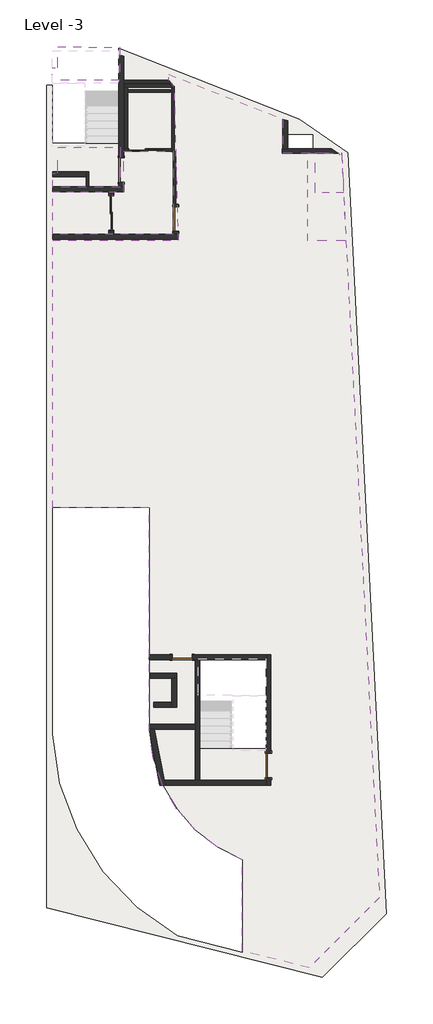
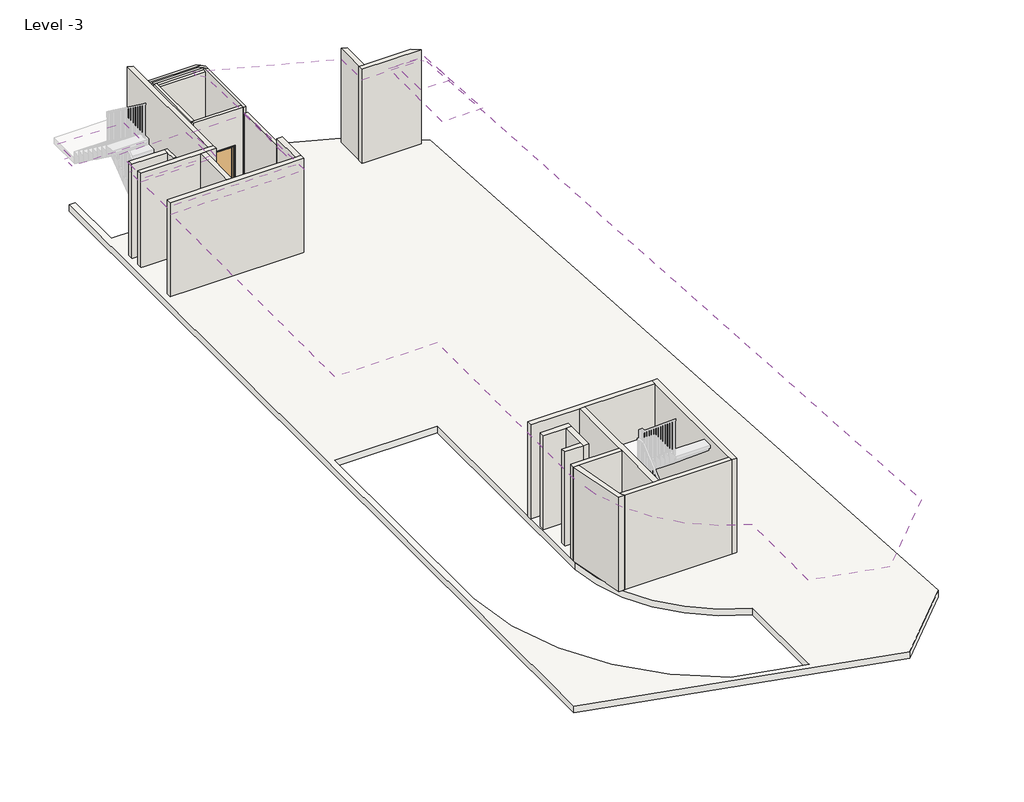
# One storey, part 1 of 2: 26 walls, 6 coverings, 6 doors, 1 slab.
"""IFC4 building model written with IfcOpenShell, lengths in millimetres."""

from ifc_helpers import new_model, si_unit, point, frame, frame_2d, origin, place, context, project, spatial, polyline, circle_curve, trimmed, segment, composite_curve, outline, extrude, faceted_brep, transform, mapped, element, save
from ifc_brep_helpers import plane_surface, cylinder_surface, revolved_surface, advanced_brep
from components import m_single_flush_0762_x_2134mm_e7173df3, m_single_flush_0915_x_2032mm_88b5ae01, m_single_flush_0915_x_2134mm_5c733ab1, sliding_door_2_panel_aus_f73f6a40, sliding_door_2_panel_aus_ee5771a8

model = new_model("IFC4")

# Units and contexts
model_context = context("Model", 3, world=origin())
ifc_project = project(units=[si_unit("LENGTHUNIT", "METRE", prefix="MILLI")], contexts=[model_context])

# Site, building, storey
site = spatial("IfcSite", under=ifc_project)
building = spatial("IfcBuilding", under=site)
storey = spatial("IfcBuildingStorey", under=building, Name="Level -3", Elevation=-10500.0)

# Coverings
placement = place(None, origin())
element("IfcCovering", 1, ObjectType="600 x 600mm Grid", at=placement, inside=storey, context=model_context, shape_type="SweptSolid", body=[
    extrude(outline(composite_curve([segment(polyline([(-50.0421304, 6706.8748838), (4649.9578696, 6706.8748838), (4499.6302337, 12469.6208989), (4287.3075102, 12681.9436225), (4287.3075102, 12910.4698504), (8546.2956563, 11236.7124719), (8546.2956563, 9974.899122), (10606.2956563, 9974.899122), (10739.4142744, 9841.7805038), (11644.560032, -7935.1908681), (12147.983796, -17822.3828109), (9531.6887056, -20438.6779013), (7033.8183565, -19807.2861395), (7033.8183565, -16402.4446286)]), True, "CONTINUOUS"), segment(trimmed(circle_curve(frame_2d((9044.1542392, -11277.4219597)), 5505.2073274), [point((7033.8183565, -16402.4446286))], [point((7033.4708981, -16402.3083214))], False, "CARTESIAN"), True, "CONTINUOUS"), segment(trimmed(circle_curve(frame_2d((9044.1542392, -11277.4219597)), 5505.2073274), [point((7033.4708981, -16402.3083214))], [point((3549.4089841, -11616.6597812))], False, "CARTESIAN"), True, "CONTINUOUS"), segment(polyline([(3549.4089841, -11616.6597812), (3549.4089841, -3268.2489802), (-50.0421304, -3268.2489802), (-50.0421304, 6706.8748838)]), True, "CONTINUOUS")], self_intersect=False), holes=[polyline([(8099.9667664, -8760.5298497), (5499.9667664, -8760.5298497), (5499.9667664, -8940.5298497), (5449.992527, -8940.5298497), (5449.992527, -12235.6929429), (5499.9667664, -12235.6929429), (5499.9667664, -13617.5279318), (8099.9667664, -13617.5279318), (8099.9667664, -8760.5298497)])]), frame((0.0, 0.0, -7400.0), z_axis=(0.0, 0.0, 1.0), x_axis=(1.0, 0.0, 0.0)), (0.0, 0.0, 1.0), 52.0),
])
element("IfcCovering", 2, ObjectType="600 x 600mm Grid", at=placement, inside=storey, context=model_context, shape_type="SweptSolid", body=[
    extrude(outline(polyline([(-50.0290025, 6931.9670663), (-50.0290025, 8531.9436159), (2599.6668671, 8531.9436159), (2599.6668671, 10031.9436225), (4454.958768, 10031.9436225), (4454.958768, 8066.9242252), (4459.6770164, 8066.9242252), (4459.6770164, 6931.9670663), (-50.0290025, 6931.9670663)])), frame((0.0, 0.0, -7300.0), z_axis=(0.0, 0.0, 1.0), x_axis=(1.0, 0.0, 0.0)), (0.0, 0.0, 1.0), 52.0),
])
element("IfcCovering", 3, ObjectType="600 x 600mm Grid", at=placement, inside=storey, context=model_context, shape_type="SweptSolid", body=[
    extrude(outline(polyline([(9476.0873915, 9954.899122), (10733.6564426, 9954.899122), (10900.0292232, 6686.33213), (9476.0873915, 6686.33213), (9476.0873915, 9954.899122)])), frame((0.0, 0.0, -7300.0), z_axis=(0.0, 0.0, 1.0), x_axis=(1.0, 0.0, 0.0)), (0.0, 0.0, 1.0), 52.0),
])
element("IfcCovering", 4, ObjectType="600 x 600mm Grid", at=placement, inside=storey, context=model_context, shape_type="SweptSolid", body=[
    extrude(outline(polyline([(9748.9783115, 9974.899122), (10732.6384259, 9974.899122), (10808.7312912, 8479.9753316), (9748.9783115, 8479.9753316), (9748.9783115, 9974.899122)])), frame((0.0, 0.0, -7300.0), z_axis=(0.0, 0.0, 1.0), x_axis=(1.0, 0.0, 0.0)), (0.0, 0.0, 1.0), 52.0),
])
element("IfcCovering", 5, ObjectType="600 x 600mm Grid", at=placement, inside=storey, context=model_context, shape_type="SweptSolid", body=[
    extrude(outline(polyline([(2481.8607589, 10179.4957281), (2481.8607589, 8696.8748746), (-50.0421304, 8696.8748746), (-50.0421304, 9219.4957281), (149.9709975, 9219.4957281), (149.9709975, 10179.4957281), (2481.8607589, 10179.4957281)])), frame((0.0, 0.0, -7350.0), z_axis=(0.0, 0.0, 1.0), x_axis=(1.0, 0.0, 0.0)), (0.0, 0.0, 1.0), 52.0),
])
element("IfcCovering", 6, ObjectType="600 x 600mm Grid", at=placement, inside=storey, context=model_context, shape_type="SweptSolid", body=[
    extrude(outline(polyline([(2454.9743495, 12688.8107611), (-60.0421304, 12688.8107611), (-60.0421304, 13143.419171), (149.9709975, 13143.419171), (149.9709975, 13943.419171), (2454.9743495, 13908.8107611), (2454.9743495, 12688.8107611)])), frame((0.0, 0.0, -9250.0), z_axis=(0.0, 0.0, 1.0), x_axis=(1.0, 0.0, 0.0)), (0.0, 0.0, 1.0), 52.0),
])

# Doors
m_single_flush_0762_x_2134mm_shape = m_single_flush_0762_x_2134mm_e7173df3(model_context)
element("IfcDoor", 7, ObjectType="M_Single-Flush : 0762 x 2134mm", at=placement, inside=storey, context=model_context, shape_type="MappedRepresentation", body=[
    mapped(m_single_flush_0762_x_2134mm_shape, transform((4788.992527, -8850.5298497, -10500.0), x_axis=(1.0, 0.0, 0.0), y_axis=(0.0, 1.0, 0.0), z_axis=(0.0, 0.0, 1.0))),
])
m_single_flush_0915_x_2032mm_shape = m_single_flush_0915_x_2032mm_88b5ae01(model_context)
element("IfcDoor", 8, ObjectType="M_Single-Flush : 0915 x 2032mm", at=placement, inside=storey, context=model_context, shape_type="MappedRepresentation", body=[
    mapped(m_single_flush_0915_x_2032mm_shape, transform((8009.9667664, -12880.0279318, -10500.0), x_axis=(0.0, -1.0, 0.0), y_axis=(1.0, 0.0, 0.0), z_axis=(0.0, 0.0, 1.0))),
])
m_single_flush_0915_x_2134mm_shape = m_single_flush_0915_x_2134mm_5c733ab1(model_context)
element("IfcDoor", 9, ObjectType="M_Single-Flush : 0915 x 2134mm", at=placement, inside=storey, context=model_context, shape_type="MappedRepresentation", body=[
    mapped(m_single_flush_0915_x_2134mm_shape, transform((2509.6668671, 9329.4436159, -10500.0), x_axis=(0.0, -1.0, 0.0), y_axis=(1.0, 0.0, 0.0), z_axis=(0.0, 0.0, 1.0))),
])
element("IfcDoor", 10, ObjectType="M_Single-Flush : 0915 x 2134mm", at=placement, inside=storey, context=model_context, shape_type="MappedRepresentation", body=[
    mapped(m_single_flush_0915_x_2134mm_shape, transform((4549.6770164, 7499.4456458, -10500.0), x_axis=(0.0, -1.0, 0.0), y_axis=(1.0, 0.0, 0.0), z_axis=(0.0, 0.0, 1.0))),
])
sliding_door_2_panel_aus_shape = sliding_door_2_panel_aus_f73f6a40(model_context)
element("IfcDoor", 11, ObjectType="Sliding Door - 2 Panel (AUS) : elavator door", at=placement, inside=storey, context=model_context, shape_type="MappedRepresentation", body=[
    mapped(sliding_door_2_panel_aus_shape, transform((2134.7837288, 7646.1973399, -10500.0), x_axis=(0.0, 1.0, 0.0), y_axis=(-1.0, 0.0, 0.0), z_axis=(0.0, 0.0, 1.0))),
])
sliding_door_2_panel_aus_2_shape = sliding_door_2_panel_aus_ee5771a8(model_context)
element("IfcDoor", 12, ObjectType="Sliding Door - 2 Panel (AUS) : elavator door", at=placement, inside=storey, context=model_context, shape_type="MappedRepresentation", body=[
    mapped(sliding_door_2_panel_aus_2_shape, transform((3525.434997, 10081.9436225, -10500.0), x_axis=(-1.0, 0.0, 0.0), y_axis=(0.0, -1.0, 0.0), z_axis=(0.0, 0.0, 1.0))),
])

# Slab
element("IfcSlab", 13, ObjectType="Standard Timber-sang Finish 2", at=placement, inside=storey, context=model_context, shape_type="AdvancedBrep", body=[
    advanced_brep(
    [(9156.5694815, 11238.6298521, -10741.0), (10957.1933497, 9989.3657475, -10741.0), (12403.1153427, -18417.281555, -10741.0), (10022.4900241, -20797.9068736, -10741.0), (-275.0290025, -18194.9820731, -10741.0), (-275.0290025, 12501.9436225, -10741.0), (-60.0290025, 12501.9436225, -10741.0), (-60.0290025, 10328.8506586, -10741.0), (2419.6668671, 10328.8506586, -10741.0), (2419.6668671, 12501.9436225, -10741.0), (2424.9709975, 12501.9436225, -10741.0), (2424.9709975, 13884.1086008, -10741.0), (4630.7168036, -19241.4894179, -10741.0), (7033.8183565, -19848.9262785, -10741.0), (7033.8183565, -19810.3775142, -10741.0), (7033.8183565, -16402.4446286, -10741.0), (3549.4089841, -11616.6597812, -10741.0), (3549.4089841, -3268.2489802, -10741.0), (-50.5910159, -3268.2489802, -10741.0), (-50.5910159, -11648.2489802, -10741.0), (-50.5910159, -11713.7810095, -10741.0), (7909.9709976, -8940.5298497, -10741.0), (5449.992527, -8940.5298497, -10741.0), (5449.992527, -12235.6929429, -10741.0), (7909.9709976, -12235.6929429, -10741.0), (9656.2956563, 10654.899122, -10741.0), (8676.2956563, 10654.899122, -10741.0), (8676.2956563, 10104.899122, -10741.0), (9656.2956563, 10104.899122, -10741.0), (10957.1933497, 9989.3657475, -10500.0), (9156.5694815, 11238.6298521, -10500.0), (2424.9709975, 13884.1086008, -10500.0), (2424.9709975, 12501.9436225, -10500.0), (2419.6668671, 12501.9436225, -10500.0), (2419.6668671, 10328.8506586, -10500.0), (-60.0290025, 10328.8506586, -10500.0), (-60.0290025, 12501.9436225, -10500.0), (-275.0290025, 12501.9436225, -10500.0), (-275.0290025, -18194.9820731, -10500.0), (10022.4900241, -20797.9068736, -10500.0), (12403.1153427, -18417.281555, -10500.0), (7033.8183565, -19848.9262785, -10500.0), (4630.7168036, -19241.4894179, -10500.0), (-50.5910159, -11713.7810095, -10500.0), (-50.5910159, -11648.2489802, -10500.0), (-50.5910159, -3268.2489802, -10500.0), (3549.4089841, -3268.2489802, -10500.0), (3549.4089841, -11616.6597812, -10500.0), (7033.8183565, -16402.4446286, -10500.0), (7033.8183565, -19810.3775142, -10500.0), (5449.992527, -8940.5298497, -10500.0), (7909.9709976, -8940.5298497, -10500.0), (7909.9709976, -12235.6929429, -10500.0), (5449.992527, -12235.6929429, -10500.0), (8676.2956563, 10654.899122, -10500.0), (9656.2956563, 10654.899122, -10500.0), (9656.2956563, 10104.899122, -10500.0), (8676.2956563, 10104.899122, -10500.0)],
    [
        (0, 1),
        (1, 2),
        (2, 3),
        (3, 4),
        (4, 5),
        (5, 6),
        (6, 7),
        (7, 8),
        (8, 9),
        (9, 10),
        (10, 11),
        (11, 0),
        (12, 13),
        (13, 14),
        (14, 15),
        (15, 16, circle_curve(frame((9044.1542392, -11277.4219597, -10741.0), z_axis=(0.0, 0.0, -1.0), x_axis=(1.0, 0.0, 0.0)), 5505.2073274)),
        (16, 17),
        (17, 18),
        (18, 19),
        (19, 20),
        (20, 12, circle_curve(frame((9044.1542392, -11277.4219597, -10741.0), z_axis=(0.0, 0.0, 1.0), x_axis=(1.0, 0.0, 0.0)), 9105.2073274)),
        (21, 22),
        (22, 23),
        (23, 24),
        (24, 21),
        (25, 26),
        (26, 27),
        (27, 28),
        (28, 25),
        (29, 30),
        (30, 31),
        (31, 32),
        (32, 33),
        (33, 34),
        (34, 35),
        (35, 36),
        (36, 37),
        (37, 38),
        (38, 39),
        (39, 40),
        (40, 29),
        (41, 42),
        (42, 43, circle_curve(frame((9044.1542392, -11277.4219597, -10500.0), z_axis=(0.0, 0.0, -1.0), x_axis=(1.0, 0.0, 0.0)), 9105.2073274)),
        (43, 44),
        (44, 45),
        (45, 46),
        (46, 47),
        (47, 48, circle_curve(frame((9044.1542392, -11277.4219597, -10500.0), z_axis=(0.0, 0.0, 1.0), x_axis=(1.0, 0.0, 0.0)), 5505.2073274)),
        (48, 49),
        (49, 41),
        (50, 51),
        (51, 52),
        (52, 53),
        (53, 50),
        (54, 55),
        (55, 56),
        (56, 57),
        (57, 54),
        (0, 30),
        (29, 1),
        (40, 2),
        (39, 3),
        (38, 4),
        (37, 5),
        (11, 31),
        (12, 42),
        (41, 13),
        (48, 15),
        (47, 16),
        (17, 46),
        (45, 18),
        (44, 19),
        (43, 20),
        (35, 7),
        (6, 36),
        (34, 8),
        (33, 9),
        (21, 51),
        (50, 22),
        (53, 23),
        (52, 24),
        (25, 55),
        (54, 26),
        (57, 27),
        (56, 28),
        (32, 10),
    ],
    [
        plane_surface(frame((9156.5694815, 11238.6298521, -10741.0), z_axis=(0.0, 0.0, -1.0), x_axis=(0.8216198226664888, -0.5700358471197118, 0.0))),
        plane_surface(frame((9156.5694815, 11238.6298521, -10500.0), z_axis=(0.0, 0.0, 1.0), x_axis=(-0.8216198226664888, 0.5700358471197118, 0.0))),
        plane_surface(frame((9156.5694815, 11238.6298521, -10741.0), z_axis=(0.5700358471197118, 0.8216198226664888, 0.0), x_axis=(0.0, 0.0, 1.0))),
        plane_surface(frame((10957.1933497, 9989.3657475, -10741.0), z_axis=(0.9987070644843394, 0.05083502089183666, 0.0), x_axis=(0.0, 0.0, 1.0))),
        plane_surface(frame((12403.1153427, -18417.281555, -10741.0), z_axis=(0.707106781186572, -0.707106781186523, 0.0), x_axis=(0.0, 0.0, 1.0))),
        plane_surface(frame((10022.4900241, -20797.9068736, -10741.0), z_axis=(-0.24506421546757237, -0.9695068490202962, 0.0), x_axis=(0.0, 0.0, 1.0))),
        plane_surface(frame((-275.0290025, -18194.9820731, -10741.0), z_axis=(-1.0, 0.0, 0.0), x_axis=(0.0, 0.0, 1.0))),
        plane_surface(frame((2424.9709975, 13884.1086008, -10741.0), z_axis=(0.36576282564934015, 0.9307080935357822, 0.0), x_axis=(0.0, 0.0, 1.0))),
        plane_surface(frame((4630.7168036, -19241.4894179, -10741.0), z_axis=(0.24506421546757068, 0.9695068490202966, 0.0), x_axis=(0.0, 0.0, 1.0))),
        plane_surface(frame((7033.8183565, -19848.9262785, -10741.0), z_axis=(-1.0, 0.0, 0.0), x_axis=(0.0, 0.0, 1.0))),
        cylinder_surface(frame((9044.1542392, -11277.4219597, -10500.0), z_axis=(0.0, 0.0, -1.0), x_axis=(1.0, 0.0, 0.0)), 5505.2073274),
        plane_surface(frame((3548.8968515, -3268.2489802, -10741.0), z_axis=(0.0, -1.0, 0.0), x_axis=(0.0, 0.0, 1.0))),
        plane_surface(frame((-50.5910159, -3268.2489802, -10741.0), z_axis=(1.0, 0.0, 0.0), x_axis=(0.0, 0.0, 1.0))),
        plane_surface(frame((-50.5910159, -11648.2489802, -10741.0), z_axis=(1.0, 0.0, 0.0), x_axis=(0.0, 0.0, 1.0))),
        revolved_surface(polyline([(18149.361566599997, -11277.4219597, -10500.0), (18149.361566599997, -11277.4219597, -10741.0)]), (9044.1542392, -11277.4219597, -10500.0), (0.0, 0.0, 1.0)),
        plane_surface(frame((-60.0290025, 12568.8506586, -3195.2), z_axis=(1.0, 0.0, 0.0), x_axis=(0.0, 0.0, -1.0))),
        plane_surface(frame((-60.0290025, 10328.8506586, -3195.2), z_axis=(0.0, 1.0, 0.0), x_axis=(0.0, 0.0, -1.0))),
        plane_surface(frame((2419.6668671, 10328.8506586, -3195.2), z_axis=(-1.0, 0.0, 0.0), x_axis=(0.0, 0.0, -1.0))),
        plane_surface(frame((7909.9709976, -8940.5298497, -3195.2), z_axis=(0.0, -1.0, 0.0), x_axis=(0.0, 0.0, -1.0))),
        plane_surface(frame((5449.992527, -8940.5298497, -3195.2), z_axis=(1.0, 0.0, 0.0), x_axis=(0.0, 0.0, -1.0))),
        plane_surface(frame((5449.992527, -12235.6929429, -3195.2), z_axis=(0.0, 1.0, 0.0), x_axis=(0.0, 0.0, -1.0))),
        plane_surface(frame((7909.9709976, -12235.6929429, -3195.2), z_axis=(-1.0, 0.0, 0.0), x_axis=(0.0, 0.0, -1.0))),
        plane_surface(frame((9656.2956563, 10654.899122, -6695.2), z_axis=(0.0, -1.0, 0.0), x_axis=(0.0, 0.0, -1.0))),
        plane_surface(frame((8676.2956563, 10654.899122, -6695.2), z_axis=(1.0, 0.0, 0.0), x_axis=(0.0, 0.0, -1.0))),
        plane_surface(frame((8676.2956563, 10104.899122, -6695.2), z_axis=(0.0, 1.0, 0.0), x_axis=(0.0, 0.0, -1.0))),
        plane_surface(frame((9656.2956563, 10104.899122, -6695.2), z_axis=(-1.0, 0.0, 0.0), x_axis=(0.0, 0.0, -1.0))),
        plane_surface(frame((3549.4089841, -11616.6597812, 3563.8), z_axis=(-1.0, 0.0, 0.0), x_axis=(0.0, 0.0, -1.0))),
        plane_surface(frame((-275.0290025, 12501.9436225, -10741.0), z_axis=(0.0, 1.0, 0.0), x_axis=(0.0, 0.0, 1.0))),
        plane_surface(frame((2424.9709975, 12501.9436225, -10741.0), z_axis=(-1.0, 0.0, 0.0), x_axis=(0.0, 0.0, 1.0))),
    ],
    [
        (0, [[1, 2, 3, 4, 5, 6, 7, 8, 9, 10, 11, 12], [13, 14, 15, 16, 17, 18, 19, 20, 21], [22, 23, 24, 25], [26, 27, 28, 29]]),
        (1, [[30, 31, 32, 33, 34, 35, 36, 37, 38, 39, 40, 41], [42, 43, 44, 45, 46, 47, 48, 49, 50], [51, 52, 53, 54], [55, 56, 57, 58]]),
        (2, [[-1, 59, -30, 60]]),
        (3, [[-2, -60, -41, 61]]),
        (4, [[-3, -61, -40, 62]]),
        (5, [[-4, -62, -39, 63]]),
        (6, [[-5, -63, -38, 64]]),
        (7, [[-12, 65, -31, -59]]),
        (8, [[-13, 66, -42, 67]]),
        (9, [[-67, -50, -49, 68, -15, -14]]),
        (10, [[-68, -48, 69, -16]]),
        (11, [[70, -46, 71, -18]]),
        (12, [[-19, -71, -45, 72]]),
        (13, [[-20, -72, -44, 73]]),
        (14, [[-21, -73, -43, -66]]),
        (15, [[74, -7, 75, -36]]),
        (16, [[-74, -35, 76, -8]]),
        (17, [[-76, -34, 77, -9]]),
        (18, [[78, -51, 79, -22]]),
        (19, [[-79, -54, 80, -23]]),
        (20, [[-80, -53, 81, -24]]),
        (21, [[-78, -25, -81, -52]]),
        (22, [[82, -55, 83, -26]]),
        (23, [[-83, -58, 84, -27]]),
        (24, [[-84, -57, 85, -28]]),
        (25, [[-82, -29, -85, -56]]),
        (26, [[-70, -17, -69, -47]]),
        (27, [[-64, -37, -75, -6]]),
        (27, [[86, -10, -77, -33]]),
        (28, [[-11, -86, -32, -65]]),
    ],
),
])

# Walls
element("IfcWall", 14, ObjectType="Generic - 18cm-gypsu-2boith 2", at=placement, inside=storey, context=model_context, shape_type="Brep", body=[
    faceted_brep([(4639.6770164, 6931.9670663, -10500.0), (4459.6770164, 6931.9670663, -10500.0), (2224.7837288, 6931.9670663, -10500.0), (2044.7837288, 6931.9670663, -10500.0), (-50.0290025, 6931.9670663, -10500.0), (-50.0290025, 6931.9670663, -7000.0), (2044.7837288, 6931.9670663, -7000.0), (2224.7837288, 6931.9670663, -7000.0), (4459.6770164, 6931.9670663, -7000.0), (4639.6770164, 6931.9670663, -7000.0), (4639.6770164, 6751.9670663, -10500.0), (4639.6770164, 6751.9670663, -7000.0), (-50.0290025, 6751.9670663, -7000.0), (-50.0290025, 6751.9670663, -10500.0)], [[[0, 1, 2, 3, 4, 5, 6, 7, 8, 9]], [[10, 11, 12, 13]], [[4, 3, 2, 1, 0, 10, 13]], [[9, 8, 7, 6, 5, 12, 11]], [[0, 9, 11, 10]], [[5, 4, 13, 12]]]),
])
element("IfcWall", 15, ObjectType="Generic - 18cm-gypsu-2boith 2", at=placement, inside=storey, context=model_context, shape_type="Brep", body=[
    faceted_brep([(4459.6770164, 7041.9456458, -8366.0), (4459.6770164, 7041.9456458, -10500.0), (4459.6770164, 6931.9670663, -10500.0), (4459.6770164, 6931.9670663, -7000.0), (4459.6770164, 8066.9242252, -7000.0), (4459.6770164, 8066.9242252, -10500.0), (4459.6770164, 7956.9456458, -10500.0), (4459.6770164, 7956.9456458, -8366.0), (4639.6770164, 6931.9670663, -10500.0), (4639.6770164, 7041.9456458, -10500.0), (4639.6770164, 7041.9456458, -8366.0), (4639.6770164, 7956.9456458, -8366.0), (4639.6770164, 7956.9456458, -10500.0), (4639.6770164, 8066.9242252, -10500.0), (4639.6770164, 8066.9242252, -7000.0), (4639.6770164, 6931.9670663, -7000.0), (4554.958768, 8066.9242252, -10500.0), (4554.958768, 8066.9242252, -7000.0)], [[[0, 1, 2, 3, 4, 5, 6, 7]], [[8, 9, 10, 11, 12, 13, 14, 15]], [[6, 5, 16, 13, 12]], [[2, 1, 9, 8]], [[4, 3, 15, 14, 17]], [[5, 4, 17, 14, 13, 16]], [[3, 2, 8, 15]], [[10, 9, 1, 0]], [[11, 10, 0, 7]], [[12, 11, 7, 6]]]),
])
element("IfcWall", 16, ObjectType="Generic - 18cm-gypsu-2boith 2", at=placement, inside=storey, context=model_context, shape_type="Brep", body=[
    faceted_brep([(2419.6668671, 8871.9436159, -8366.0), (2419.6668671, 8871.9436159, -10500.0), (2419.6668671, 8711.9436159, -10500.0), (2419.6668671, 8711.9436159, -7000.0), (2419.6668671, 13644.4416764, -7000.0), (2419.6668671, 13644.4416764, -10500.0), (2419.6668671, 9786.9436159, -10500.0), (2419.6668671, 9786.9436159, -8366.0), (2599.6668671, 8711.9436159, -10500.0), (2599.6668671, 8871.9436159, -10500.0), (2599.6668671, 8871.9436159, -8366.0), (2599.6668671, 9786.9436159, -8366.0), (2599.6668671, 9786.9436159, -10500.0), (2599.6668671, 13573.7027314, -10500.0), (2599.6668671, 13573.7027314, -7000.0), (2599.6668671, 8711.9436159, -7000.0)], [[[0, 1, 2, 3, 4, 5, 6, 7]], [[8, 9, 10, 11, 12, 13, 14, 15]], [[6, 5, 13, 12]], [[2, 1, 9, 8]], [[4, 3, 15, 14]], [[3, 2, 8, 15]], [[10, 9, 1, 0]], [[11, 10, 0, 7]], [[12, 11, 7, 6]], [[5, 4, 14, 13]]]),
])
element("IfcWall", 17, ObjectType="Generic - 18cm-gypsu-2boith 2", at=placement, inside=storey, context=model_context, shape_type="Brep", body=[
    faceted_brep([(2599.6668671, 8711.9436159, -10500.0), (2419.6668671, 8711.9436159, -10500.0), (-50.0290025, 8711.9436159, -10500.0), (-50.0290025, 8711.9436159, -7000.0), (2419.6668671, 8711.9436159, -7000.0), (2599.6668671, 8711.9436159, -7000.0), (2599.6668671, 8531.9436159, -10500.0), (2599.6668671, 8531.9436159, -7000.0), (2224.7837288, 8531.9436159, -7000.0), (2044.7837288, 8531.9436159, -7000.0), (-50.0290025, 8531.9436159, -7000.0), (-50.0290025, 8531.9436159, -10500.0), (2044.7837288, 8531.9436159, -10500.0), (2224.7837288, 8531.9436159, -10500.0)], [[[0, 1, 2, 3, 4, 5]], [[6, 7, 8, 9, 10, 11, 12, 13]], [[2, 1, 0, 6, 13, 12, 11]], [[5, 4, 3, 10, 9, 8, 7]], [[0, 5, 7, 6]], [[3, 2, 11, 10]]]),
])
element("IfcWall", 18, ObjectType="Generic - 10cm-gypsu-2boith", at=placement, inside=storey, context=model_context, shape_type="Brep", body=[
    faceted_brep([(4454.958768, 10019.4984209, -10500.0), (4454.958768, 8066.9242252, -10500.0), (4454.958768, 8066.9242252, -7241.0), (4454.958768, 10019.4984209, -7241.0), (4554.958768, 8066.9242252, -10500.0), (4554.958768, 10019.4984209, -10500.0), (4554.958768, 10019.4984209, -7241.0), (4554.958768, 8066.9242252, -7241.0), (4499.6302337, 10019.4984209, -10500.0), (4459.6770164, 8066.9242252, -10500.0)], [[[0, 1, 2, 3]], [[4, 5, 6, 7]], [[1, 0, 8, 5, 4, 9]], [[1, 9, 4, 7, 2]], [[5, 8, 0, 3, 6]], [[3, 2, 7, 6]]]),
])
element("IfcWall", 19, ObjectType="Generic - 10cm-gypsu-2boith", at=placement, inside=storey, context=model_context, shape_type="Brep", body=[
    faceted_brep([(1198.6625691, 9269.4957276, -10500.0), (1198.6625691, 9089.4957276, -10500.0), (1198.6625691, 8731.9436159, -10500.0), (1198.6625691, 8731.9436159, -7000.0), (1198.6625691, 9089.4957276, -7000.0), (1198.6625691, 9269.4957276, -7000.0), (1298.6625691, 9269.4957276, -10500.0), (1298.6625691, 9269.4957276, -7000.0), (1298.6625691, 8731.9436159, -7000.0), (1298.6625691, 8731.9436159, -10500.0)], [[[0, 1, 2, 3, 4, 5]], [[6, 7, 8, 9]], [[2, 1, 0, 6, 9]], [[3, 2, 9, 8]], [[5, 4, 3, 8, 7]], [[0, 5, 7, 6]]]),
])
element("IfcWall", 20, ObjectType="Generic - 18cm-gypsu-2boith 2", at=placement, inside=storey, context=model_context, shape_type="SweptSolid", body=[
    extrude(outline(polyline([(1198.6625691, 9089.4957276), (-50.0290025, 9089.4957276), (-50.0290025, 9269.4957276), (1198.6625691, 9269.4957276), (1198.6625691, 9089.4957276)])), frame((0.0, 0.0, -10500.0), z_axis=(0.0, 0.0, 1.0), x_axis=(1.0, 0.0, 0.0)), (0.0, 0.0, 1.0), 3500.0),
])
element("IfcWall", 21, ObjectType="Generic - 10cm-gypsu-2boith", at=placement, inside=storey, context=model_context, shape_type="Brep", body=[
    faceted_brep([(4399.6302337, 10031.9436225, -7000.0), (2649.6769958, 10031.9436225, -7000.0), (2649.6769958, 10031.9436225, -10500.0), (2749.6769958, 10031.9436225, -10500.0), (2749.6769958, 10031.9436225, -8317.0), (4129.6769958, 10031.9436225, -8317.0), (4129.6769958, 10031.9436225, -10500.0), (4399.6302337, 10031.9436225, -10500.0), (2649.6769958, 10131.9436225, -7000.0), (2749.6769958, 10131.9436225, -7000.0), (4399.6302337, 10131.9436225, -7000.0), (4399.6302337, 10131.9436225, -10500.0), (4129.6769958, 10131.9436225, -10500.0), (4129.6769958, 10131.9436225, -8317.0), (2749.6769958, 10131.9436225, -8317.0), (2749.6769958, 10131.9436225, -10500.0), (2649.6769958, 10131.9436225, -10500.0)], [[[0, 1, 2, 3, 4, 5, 6, 7]], [[8, 9, 10, 11, 12, 13, 14, 15, 16]], [[2, 16, 15, 3]], [[11, 7, 6, 12]], [[1, 0, 10, 9, 8]], [[2, 1, 8, 16]], [[0, 7, 11, 10]], [[5, 13, 12, 6]], [[13, 5, 4, 14]], [[14, 4, 3, 15]]]),
])
element("IfcWall", 22, ObjectType="Generic - 10cm-gypsu-2boith", at=placement, inside=storey, context=model_context, shape_type="Brep", body=[
    faceted_brep([(4399.6302337, 12428.1995427, -10500.0), (4399.6302337, 10131.9436225, -10500.0), (4399.6302337, 10031.9436225, -10500.0), (4399.6302337, 10019.4984209, -10500.0), (4399.6302337, 10019.4984209, -7000.0), (4399.6302337, 10031.9436225, -7000.0), (4399.6302337, 10131.9436225, -7000.0), (4399.6302337, 12428.1995427, -7000.0), (4499.6302337, 12328.1995427, -10500.0), (4499.6302337, 12328.1995427, -7000.0), (4499.6302337, 10019.4984209, -7000.0), (4499.6302337, 10019.4984209, -10500.0), (4454.958768, 10019.4984209, -10500.0), (4454.958768, 10019.4984209, -7000.0)], [[[0, 1, 2, 3, 4, 5, 6, 7]], [[8, 9, 10, 11]], [[3, 2, 1, 0, 8, 11, 12]], [[4, 3, 12, 11, 10, 13]], [[7, 6, 5, 4, 13, 10, 9]], [[0, 7, 9, 8]]]),
])
element("IfcWall", 23, ObjectType="Generic - 10cm-gypsu-2boith", at=placement, inside=storey, context=model_context, shape_type="Brep", body=[
    faceted_brep([(2649.6769958, 12431.9436225, -10500.0), (2649.6769958, 10131.9436225, -10500.0), (2649.6769958, 10131.9436225, -7000.0), (2649.6769958, 12431.9436225, -7000.0), (2749.6769958, 12431.9436225, -10500.0), (2749.6769958, 12431.9436225, -7000.0), (2749.6769958, 12331.9436225, -7000.0), (2749.6769958, 12231.9436225, -7000.0), (2749.6769958, 10131.9436225, -7000.0), (2749.6769958, 10131.9436225, -10500.0), (2749.6769958, 12231.9436225, -10500.0), (2749.6769958, 12331.9436225, -10500.0)], [[[0, 1, 2, 3]], [[4, 5, 6, 7, 8, 9, 10, 11]], [[1, 0, 4, 11, 10, 9]], [[3, 2, 8, 7, 6, 5]], [[2, 1, 9, 8]], [[0, 3, 5, 4]]]),
])
element("IfcWall", 24, ObjectType="Generic - 10cm-gypsu-2boith", at=placement, inside=storey, context=model_context, shape_type="SweptSolid", body=[
    extrude(outline(polyline([(2749.6769958, 12331.9436225), (4349.6770254, 12331.9436225), (4349.6770254, 12231.9436225), (2749.6769958, 12231.9436225), (2749.6769958, 12331.9436225)])), frame((0.0, 0.0, -10500.0), z_axis=(0.0, 0.0, 1.0), x_axis=(1.0, 0.0, 0.0)), (0.0, 0.0, 1.0), 3500.0),
])
element("IfcWall", 25, ObjectType="Generic - 10cm-gypsu-2boith", at=placement, inside=storey, context=model_context, shape_type="Brep", body=[
    faceted_brep([(4295.8861539, 12531.9436225, -10500.0), (2649.6769958, 12531.9436225, -10500.0), (2649.6769958, 12531.9436225, -7000.0), (4295.8861539, 12531.9436225, -7000.0), (4395.8861539, 12431.9436225, -10500.0), (4395.8861539, 12431.9436225, -7000.0), (2749.6769958, 12431.9436225, -7000.0), (2649.6769958, 12431.9436225, -7000.0), (2649.6769958, 12431.9436225, -10500.0), (2749.6769958, 12431.9436225, -10500.0)], [[[0, 1, 2, 3]], [[4, 5, 6, 7, 8, 9]], [[1, 0, 4, 9, 8]], [[3, 2, 7, 6, 5]], [[0, 3, 5, 4]], [[2, 1, 8, 7]]]),
])
element("IfcWall", 26, ObjectType="Generic - 10cm-gypsu-2boith", at=placement, inside=storey, context=model_context, shape_type="Brep", body=[
    faceted_brep([(4287.3075102, 12681.9436225, -10500.0), (2600.9917149, 12681.9436225, -10500.0), (2600.9917149, 12681.9436225, -7000.0), (4287.3075102, 12681.9436225, -7000.0), (4387.3075102, 12581.9436225, -10500.0), (4387.3075102, 12581.9436225, -7000.0), (4245.8861539, 12581.9436225, -7000.0), (2600.9917149, 12581.9436225, -7000.0), (2600.9917149, 12581.9436225, -10500.0), (4245.8861539, 12581.9436225, -10500.0)], [[[0, 1, 2, 3]], [[4, 5, 6, 7, 8, 9]], [[1, 0, 4, 9, 8]], [[2, 1, 8, 7]], [[3, 2, 7, 6, 5]], [[0, 3, 5, 4]]]),
])
element("IfcWall", 27, ObjectType="Generic - 10cm-gypsu-2boith", at=placement, inside=storey, context=model_context, shape_type="Brep", body=[
    faceted_brep([(4499.6302337, 12469.6208989, -10500.0), (4387.3075102, 12581.9436225, -10500.0), (4387.3075102, 12581.9436225, -7000.0), (4499.6302337, 12469.6208989, -7000.0), (4499.6302337, 12328.1995427, -10500.0), (4499.6302337, 12328.1995427, -7000.0), (4399.6302337, 12428.1995427, -7000.0), (4395.8861539, 12431.9436225, -7000.0), (4295.8861539, 12531.9436225, -7000.0), (4245.8861539, 12581.9436225, -7000.0), (4245.8861539, 12581.9436225, -10500.0), (4295.8861539, 12531.9436225, -10500.0), (4395.8861539, 12431.9436225, -10500.0), (4399.6302337, 12428.1995427, -10500.0)], [[[0, 1, 2, 3]], [[4, 5, 6, 7, 8, 9, 10, 11, 12, 13]], [[1, 0, 4, 13, 12, 11, 10]], [[3, 2, 9, 8, 7, 6, 5]], [[2, 1, 10, 9]], [[0, 3, 5, 4]]]),
])
element("IfcWall", 28, ObjectType="Generic - 18cm-gypsu-2boith 2", at=placement, inside=storey, context=model_context, shape_type="Brep", body=[
    faceted_brep([(7919.9667664, -8760.5298497, -10500.0), (5169.992527, -8760.5298497, -10500.0), (5169.992527, -8760.5298497, -8366.0), (4407.992527, -8760.5298497, -8366.0), (4407.992527, -8760.5298497, -10500.0), (3549.4089841, -8760.5298497, -10500.0), (3549.4089841, -8760.5298497, -7000.0), (7919.9667664, -8760.5298497, -7000.0), (5169.992527, -8940.5298497, -8366.0), (5169.992527, -8940.5298497, -10500.0), (5269.992527, -8940.5298497, -10500.0), (5449.992527, -8940.5298497, -10500.0), (7919.9667664, -8940.5298497, -10500.0), (7919.9667664, -8940.5298497, -7000.0), (5449.992527, -8940.5298497, -7000.0), (5269.992527, -8940.5298497, -7000.0), (3549.4089841, -8940.5298497, -7000.0), (3549.4089841, -8940.5298497, -10500.0), (4407.992527, -8940.5298497, -10500.0), (4407.992527, -8940.5298497, -8366.0)], [[[0, 1, 2, 3, 4, 5, 6, 7]], [[8, 9, 10, 11, 12, 13, 14, 15, 16, 17, 18, 19]], [[18, 17, 5, 4]], [[12, 11, 10, 9, 1, 0]], [[6, 5, 17, 16]], [[7, 6, 16, 15, 14, 13]], [[2, 1, 9, 8]], [[3, 2, 8, 19]], [[4, 3, 19, 18]], [[0, 7, 13, 12]]]),
])
element("IfcWall", 29, ObjectType="Generic - 18cm-gypsu-2boith 2", at=placement, inside=storey, context=model_context, shape_type="Brep", body=[
    faceted_brep([(7919.9667664, -13337.5279318, -8468.0), (7919.9667664, -13337.5279318, -10500.0), (7919.9667664, -13437.5279318, -10500.0), (7919.9667664, -13617.5279318, -10500.0), (7919.9667664, -13617.5279318, -7000.0), (7919.9667664, -13437.5279318, -7000.0), (7919.9667664, -8940.5298497, -7000.0), (7919.9667664, -8760.5298497, -7000.0), (7919.9667664, -8760.5298497, -10500.0), (7919.9667664, -8940.5298497, -10500.0), (7919.9667664, -12422.5279318, -10500.0), (7919.9667664, -12422.5279318, -8468.0), (8099.9667664, -13617.5279318, -10500.0), (8099.9667664, -13337.5279318, -10500.0), (8099.9667664, -13337.5279318, -8468.0), (8099.9667664, -12422.5279318, -8468.0), (8099.9667664, -12422.5279318, -10500.0), (8099.9667664, -8760.5298497, -10500.0), (8099.9667664, -8760.5298497, -7000.0), (8099.9667664, -13617.5279318, -7000.0)], [[[0, 1, 2, 3, 4, 5, 6, 7, 8, 9, 10, 11]], [[12, 13, 14, 15, 16, 17, 18, 19]], [[3, 2, 1, 13, 12]], [[10, 9, 8, 17, 16]], [[7, 6, 5, 4, 19, 18]], [[4, 3, 12, 19]], [[14, 13, 1, 0]], [[15, 14, 0, 11]], [[16, 15, 11, 10]], [[8, 7, 18, 17]]]),
])
element("IfcWall", 30, ObjectType="Generic - 18cm-gypsu-2boith 2", at=placement, inside=storey, context=model_context, shape_type="Brep", body=[
    faceted_brep([(5449.992527, -13437.5279318, -10500.0), (5449.992527, -8940.5298497, -10500.0), (5449.992527, -8940.5298497, -7000.0), (5449.992527, -13437.5279318, -7000.0), (5269.992527, -13437.5279318, -10500.0), (5269.992527, -13437.5279318, -7000.0), (5269.992527, -11535.2406086, -7000.0), (5269.992527, -11355.2406086, -7000.0), (5269.992527, -8940.5298497, -7000.0), (5269.992527, -8940.5298497, -10500.0), (5269.992527, -11355.2406086, -10500.0), (5269.992527, -11535.2406086, -10500.0)], [[[0, 1, 2, 3]], [[4, 5, 6, 7, 8, 9, 10, 11]], [[1, 0, 4, 11, 10, 9]], [[3, 2, 8, 7, 6, 5]], [[2, 1, 9, 8]], [[0, 3, 5, 4]]]),
])
element("IfcWall", 31, ObjectType="Generic - 18cm-gypsu-2boith 2", at=placement, inside=storey, context=model_context, shape_type="AdvancedBrep", body=[
    advanced_brep(
    [(7919.9667664, -13437.5279318, -10500.0), (5449.992527, -13437.5279318, -10500.0), (5269.992527, -13437.5279318, -10500.0), (4073.9239779, -13437.5279318, -10500.0), (4073.9239779, -13437.5279318, -7000.0), (5269.992527, -13437.5279318, -7000.0), (5449.992527, -13437.5279318, -7000.0), (7919.9667664, -13437.5279318, -7000.0), (7919.9667664, -13617.5279318, -10500.0), (7919.9667664, -13617.5279318, -7000.0), (4153.3159797, -13617.5279318, -7000.0), (4153.3159797, -13617.5279318, -10500.0)],
    [
        (0, 1),
        (1, 2),
        (2, 3),
        (3, 4),
        (4, 5),
        (5, 6),
        (6, 7),
        (7, 0),
        (8, 9),
        (9, 10),
        (10, 11),
        (11, 8),
        (0, 8),
        (11, 3, circle_curve(frame((8170.7225142, -11738.0751988, -10500.0), z_axis=(0.0, 0.0, -1.0), x_axis=(-0.996421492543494, -0.08452342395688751, 0.0)), 4435.3013245)),
        (4, 10, circle_curve(frame((8170.7225142, -11738.0751988, -7000.0), z_axis=(0.0, 0.0, 1.0), x_axis=(-0.996421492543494, -0.08452342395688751, 0.0)), 4435.3013245)),
        (9, 7),
    ],
    [
        plane_surface(frame((6817.1731359, -13437.5279318, -10500.0), z_axis=(0.0, 1.0, 0.0), x_axis=(-1.0, 0.0, 0.0))),
        plane_surface(frame((6817.1731359, -13617.5279318, -10500.0), z_axis=(0.0, -1.0, 0.0), x_axis=(1.0, 0.0, 0.0))),
        plane_surface(frame((8009.9667664, -13437.5279318, -10500.0), z_axis=(0.0, 0.0, -1.0), x_axis=(0.0, -1.0, 0.0))),
        plane_surface(frame((4014.2563476, -13437.5279318, -7000.0), z_axis=(0.0, 0.0, 1.0), x_axis=(0.0, -1.0, 0.0))),
        plane_surface(frame((7919.9667664, -9630.5561637, -10500.0), z_axis=(1.0, 0.0, 0.0), x_axis=(0.0, -1.0, 0.0))),
        cylinder_surface(frame((8170.7225142, -11738.0751988, -10500.0), z_axis=(0.0, 0.0, -1.0), x_axis=(-0.996421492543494, -0.08452342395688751, 0.0)), 4435.3013245),
    ],
    [
        (0, [[1, 2, 3, 4, 5, 6, 7, 8]]),
        (1, [[9, 10, 11, 12]]),
        (2, [[-3, -2, -1, 13, -12, 14]]),
        (3, [[-7, -6, -5, 15, -10, 16]]),
        (4, [[-8, -16, -9, -13]]),
        (5, [[-4, -14, -11, -15]]),
    ],
),
])
element("IfcWall", 32, ObjectType="Generic - 18cm-gypsu-2boith 2", at=placement, inside=storey, context=model_context, shape_type="AdvancedBrep", body=[
    advanced_brep(
    [(5269.992527, -11355.2406086, -10500.0), (3571.3264677, -11355.2406086, -10500.0), (3571.3264677, -11355.2406086, -7000.0), (5269.992527, -11355.2406086, -7000.0), (5269.992527, -11535.2406086, -10500.0), (5269.992527, -11535.2406086, -7000.0), (3740.061619, -11535.2406086, -7000.0), (3559.8804604, -11535.2406086, -7000.0), (3559.8804604, -11535.2406086, -10500.0), (3740.061619, -11535.2406086, -10500.0)],
    [
        (0, 1),
        (1, 2),
        (2, 3),
        (3, 0),
        (4, 5),
        (5, 6),
        (6, 7),
        (7, 8),
        (8, 9),
        (9, 4),
        (0, 4),
        (8, 1, circle_curve(frame((8170.7225142, -11738.0751988, -10500.0), z_axis=(0.0, 0.0, -1.0), x_axis=(-0.996421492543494, -0.08452342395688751, 0.0)), 4615.3013245)),
        (2, 7, circle_curve(frame((8170.7225142, -11738.0751988, -7000.0), z_axis=(0.0, 0.0, 1.0), x_axis=(-0.996421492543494, -0.08452342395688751, 0.0)), 4615.3013245)),
        (5, 3),
    ],
    [
        plane_surface(frame((4899.9914965, -11355.2406086, -10500.0), z_axis=(0.0, 1.0, 0.0), x_axis=(-1.0, 0.0, 0.0))),
        plane_surface(frame((4899.9914965, -11535.2406086, -10500.0), z_axis=(0.0, -1.0, 0.0), x_axis=(1.0, 0.0, 0.0))),
        plane_surface(frame((5359.992527, -11355.2406086, -10500.0), z_axis=(0.0, 0.0, -1.0), x_axis=(0.0, -1.0, 0.0))),
        plane_surface(frame((3654.9058682, -11355.2406086, -7000.0), z_axis=(0.0, 0.0, 1.0), x_axis=(0.0, -1.0, 0.0))),
        plane_surface(frame((5269.992527, -8797.3826572, -10500.0), z_axis=(1.0, 0.0, 0.0), x_axis=(0.0, -1.0, 0.0))),
        cylinder_surface(frame((8170.7225142, -11738.0751988, -10500.0), z_axis=(0.0, 0.0, 1.0), x_axis=(-0.996421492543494, -0.08452342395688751, 0.0)), 4615.3013245),
    ],
    [
        (0, [[1, 2, 3, 4]]),
        (1, [[5, 6, 7, 8, 9, 10]]),
        (2, [[-1, 11, -10, -9, 12]]),
        (3, [[-3, 13, -7, -6, 14]]),
        (4, [[-4, -14, -5, -11]]),
        (5, [[-2, -12, -8, -13]]),
    ],
),
])
element("IfcWall", 33, ObjectType="Generic - 18cm-gypsu-2boith 2", at=placement, inside=storey, context=model_context, shape_type="AdvancedBrep", body=[
    advanced_brep(
    [(4153.3159797, -13617.5279318, -7000.0), (4073.9213856, -13437.5216298, -7000.0), (3740.061619, -11535.2406086, -7000.0), (3559.8804604, -11535.2406086, -7000.0), (3955.4332311, -13617.5279318, -7000.0), (4153.3159797, -13617.5279318, -10500.0), (3955.4332311, -13617.5279318, -10500.0), (3559.8804604, -11535.2406086, -10500.0), (3740.061619, -11535.2406086, -10500.0), (4073.9213856, -13437.5216298, -10500.0)],
    [
        (0, 1, circle_curve(frame((8170.7225142, -11738.0751988, -7000.0), z_axis=(0.0, 0.0, -1.0), x_axis=(-0.996421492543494, -0.08452342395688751, 0.0)), 4435.3013245)),
        (1, 2, circle_curve(frame((8170.7225142, -11738.0751988, -7000.0), z_axis=(0.0, 0.0, -1.0), x_axis=(-0.996421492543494, -0.08452342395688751, 0.0)), 4435.3013042)),
        (2, 3),
        (3, 4, circle_curve(frame((8170.7225142, -11738.0751988, -7000.0), z_axis=(0.0, 0.0, 1.0), x_axis=(-0.996421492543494, -0.08452342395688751, 0.0)), 4615.3013245)),
        (4, 0),
        (5, 6),
        (6, 7, circle_curve(frame((8170.7225142, -11738.0751988, -10500.0), z_axis=(0.0, 0.0, -1.0), x_axis=(-0.996421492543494, -0.08452342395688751, 0.0)), 4615.3013245)),
        (7, 8),
        (8, 9, circle_curve(frame((8170.7225142, -11738.0751988, -10500.0), z_axis=(0.0, 0.0, 1.0), x_axis=(-0.996421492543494, -0.08452342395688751, 0.0)), 4435.3013245)),
        (9, 5, circle_curve(frame((8170.7225142, -11738.0751988, -10500.0), z_axis=(0.0, 0.0, 1.0), x_axis=(-0.996421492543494, -0.08452342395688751, 0.0)), 4435.3013042)),
        (0, 5),
        (8, 2),
        (3, 7),
        (6, 4),
    ],
    [
        plane_surface(frame((3751.2929486, -12112.962053, -7000.0), z_axis=(0.0, 0.0, 1.0), x_axis=(-0.08452342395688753, 0.996421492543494, 0.0))),
        plane_surface(frame((3751.2929486, -12112.962053, -10500.0), z_axis=(0.0, 0.0, -1.0), x_axis=(0.08452342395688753, -0.996421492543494, 0.0))),
        revolved_surface(polyline([(3751.292948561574, -12112.962053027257, -10500.0), (3751.292948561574, -12112.962053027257, -7000.0)]), (8170.7225142, -11738.0751988, -10500.0), (0.0, 0.0, -1.0)),
        cylinder_surface(frame((8170.7225142, -11738.0751988, -10500.0), z_axis=(0.0, 0.0, 1.0), x_axis=(-0.996421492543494, -0.08452342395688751, 0.0)), 4615.3013245),
        plane_surface(frame((4899.9914965, -11535.2406086, -10500.0), z_axis=(0.0, 1.0, 0.0), x_axis=(1.0, 0.0, 0.0))),
        plane_surface(frame((6817.1731359, -13617.5279318, -10500.0), z_axis=(0.0, -1.0, 0.0), x_axis=(1.0, 0.0, 0.0))),
    ],
    [
        (0, [[1, 2, 3, 4, 5]]),
        (1, [[6, 7, 8, 9, 10]]),
        (2, [[-2, -1, 11, -10, -9, 12]]),
        (3, [[-4, 13, -7, 14]]),
        (4, [[-3, -12, -8, -13]]),
        (5, [[-5, -14, -6, -11]]),
    ],
),
])
element("IfcWall", 34, ObjectType="Generic - 18cm-gypsu-2boith 2", at=placement, inside=storey, context=model_context, shape_type="Brep", body=[
    faceted_brep([(4578.6875281, -9450.0867626, -10500.0), (3601.2929486, -9450.0867626, -10500.0), (3601.2929486, -9450.0867626, -7000.0), (4578.6875281, -9450.0867626, -7000.0), (4578.6875281, -9630.0867626, -10500.0), (4578.6875281, -9630.0867626, -7000.0), (4398.6875281, -9630.0867626, -7000.0), (3601.2929486, -9630.0867626, -7000.0), (3601.2929486, -9630.0867626, -10500.0), (4398.6875281, -9630.0867626, -10500.0)], [[[0, 1, 2, 3]], [[4, 5, 6, 7, 8, 9]], [[1, 0, 4, 9, 8]], [[2, 1, 8, 7]], [[3, 2, 7, 6, 5]], [[0, 3, 5, 4]]]),
])
element("IfcWall", 35, ObjectType="Generic - 18cm-gypsu-2boith 2", at=placement, inside=storey, context=model_context, shape_type="Brep", body=[
    faceted_brep([(4398.6875281, -9630.0867626, -10500.0), (4398.6875281, -10530.0867626, -10500.0), (4398.6875281, -10710.0867626, -10500.0), (4398.6875281, -10710.0867626, -7000.0), (4398.6875281, -10530.0867626, -7000.0), (4398.6875281, -9630.0867626, -7000.0), (4578.6875281, -9630.0867626, -10500.0), (4578.6875281, -9630.0867626, -7000.0), (4578.6875281, -10710.0867626, -7000.0), (4578.6875281, -10710.0867626, -10500.0)], [[[0, 1, 2, 3, 4, 5]], [[6, 7, 8, 9]], [[2, 1, 0, 6, 9]], [[5, 4, 3, 8, 7]], [[0, 5, 7, 6]], [[3, 2, 9, 8]]]),
])
element("IfcWall", 36, ObjectType="Generic - 18cm-gypsu-2boith 2", at=placement, inside=storey, context=model_context, shape_type="SweptSolid", body=[
    extrude(outline(polyline([(3731.2929486, -10530.0867626), (4398.6875281, -10530.0867626), (4398.6875281, -10710.0867626), (3731.2929486, -10710.0867626), (3731.2929486, -10530.0867626)])), frame((0.0, 0.0, -10500.0), z_axis=(0.0, 0.0, 1.0), x_axis=(1.0, 0.0, 0.0)), (0.0, 0.0, 1.0), 3500.0),
])
element("IfcWall", 37, ObjectType="Generic - 18cm-gypsu-2boith 2", at=placement, inside=storey, context=model_context, shape_type="Brep", body=[
    faceted_brep([(10352.7171453, 10134.899122, -10500.0), (8726.2956563, 10134.899122, -10500.0), (8546.2956563, 10134.899122, -10500.0), (8526.2956563, 10134.899122, -10500.0), (8526.2956563, 10134.899122, -7000.0), (8546.2956563, 10134.899122, -7000.0), (8726.2956563, 10134.899122, -7000.0), (10352.7171453, 10134.899122, -7000.0), (10612.1597204, 9954.899122, -10500.0), (10612.1597204, 9954.899122, -7000.0), (8526.2956563, 9954.899122, -7000.0), (8526.2956563, 9954.899122, -10500.0)], [[[0, 1, 2, 3, 4, 5, 6, 7]], [[8, 9, 10, 11]], [[3, 2, 1, 0, 8, 11]], [[4, 3, 11, 10]], [[7, 6, 5, 4, 10, 9]], [[0, 7, 9, 8]]]),
])
element("IfcWall", 38, ObjectType="Generic - 18cm-gypsu-2boith 2", at=placement, inside=storey, context=model_context, shape_type="SweptSolid", body=[
    extrude(outline(polyline([(8726.2956563, 11165.973527), (8726.2956563, 10134.899122), (8546.2956563, 10134.899122), (8546.2956563, 11236.7124719), (8726.2956563, 11165.973527)])), frame((0.0, 0.0, -10500.0), z_axis=(0.0, 0.0, 1.0), x_axis=(1.0, 0.0, 0.0)), (0.0, 0.0, 1.0), 3500.0),
])
element("IfcWall", 39, ObjectType="Generic - 18cm-gypsu-2boith 2", at=placement, inside=storey, context=model_context, shape_type="SweptSolid", body=[
    extrude(outline(polyline([(6931.9670663, -7000.0), (8531.9436159, -7000.0), (8531.9436159, -10500.0), (8421.9553411, -10500.0), (8421.9553411, -8317.0), (7041.9553411, -8317.0), (7041.9553411, -10500.0), (6931.9670663, -10500.0), (6931.9670663, -7000.0)])), frame((2044.7837288, 0.0, 0.0), z_axis=(1.0, 0.0, 0.0), x_axis=(0.0, 1.0, 0.0)), (0.0, 0.0, 1.0), 180.0),
])

save(model, "model.ifc")
